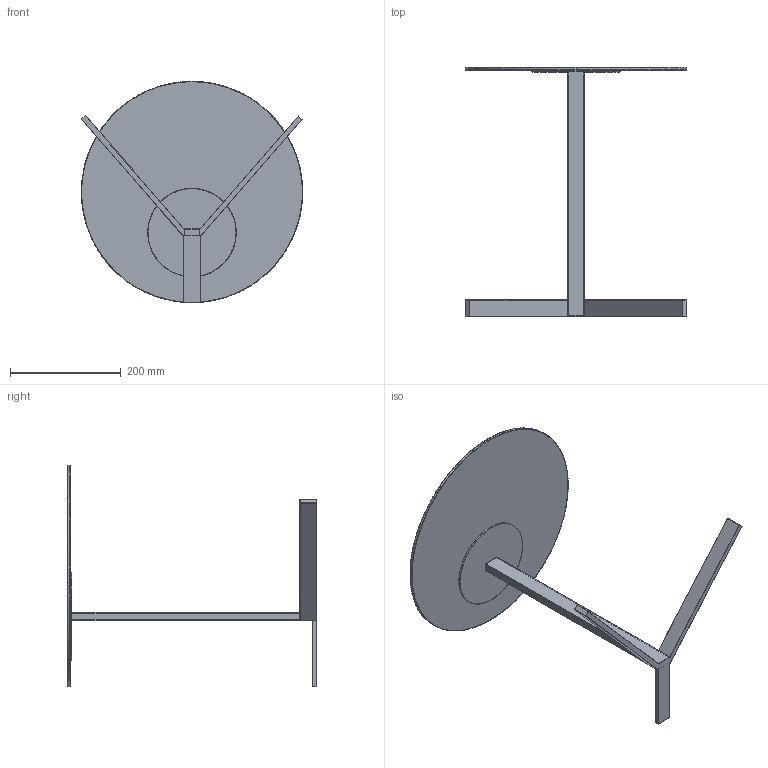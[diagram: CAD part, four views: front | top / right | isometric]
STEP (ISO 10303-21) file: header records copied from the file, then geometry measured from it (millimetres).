
FILE_DESCRIPTION(/* description */ (''),/* implementation_level */ '2;1');
FILE_NAME(/* name */ 'BIRDY_~4',/* time_stamp */ '2020-03-23T13:45:50+01:00',/* author */ (''),/* organization */ (''),/* preprocessor_version */ 'ST-DEVELOPER v15',/* originating_system */ '',/* authorisation */ '');
FILE_SCHEMA (('AUTOMOTIVE_DESIGN'));
Length unit declared in the file: millimetre
Products named in the file (1): Document
Bounding box: 399.87 x 450 x 400 mm (x, y, z)
Volume: 689622.5 mm3; surface area: 425382.2 mm2
Topology: 2 solids, 3 shells, 120 faces, 278 edges, 146 vertices
Faces by surface type: bspline 93, plane 27
Entity records: 6087 total; most frequent: CARTESIAN_POINT 4523, ORIENTED_EDGE 518, EDGE_CURVE 266, VERTEX_POINT 146, B_SPLINE_CURVE_WITH_KNOTS 130, EDGE_LOOP 121, ADVANCED_FACE 120, FACE_OUTER_BOUND 120
